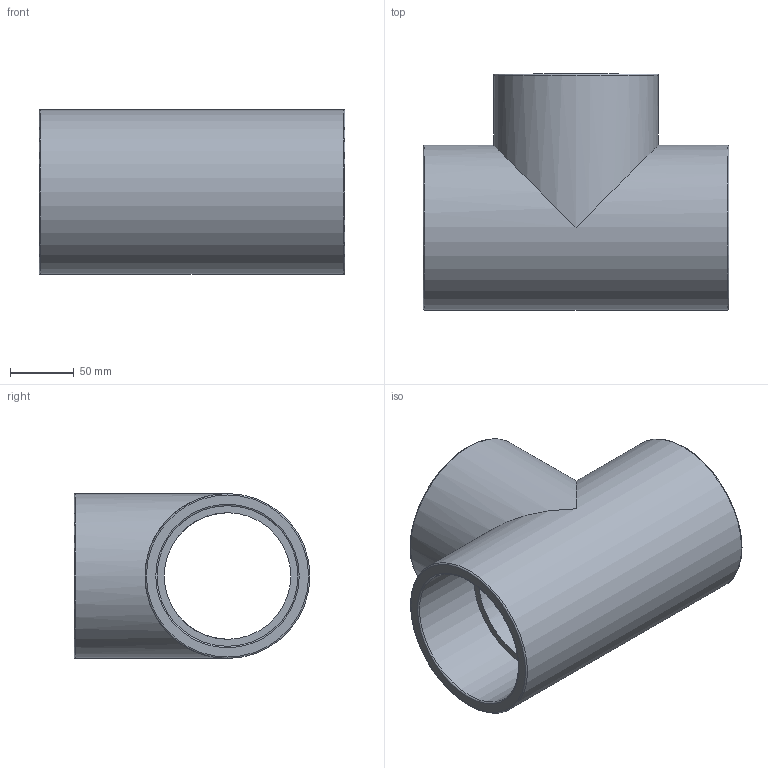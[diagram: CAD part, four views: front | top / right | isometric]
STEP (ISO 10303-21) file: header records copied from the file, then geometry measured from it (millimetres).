
FILE_DESCRIPTION(/* description */ ('PLASSON TEE-CEMENT PVC 110'),/* implementation_level */ '2;1');
FILE_NAME(/* name */ 'C:\Dropbox\KIMPROJECTS-Inventor\99-16-3568-Processing\PVC Catalog 2017\050400\050400110.ipt.stp',/* time_stamp */ '2017-12-07T15:54:28+02:00',/* author */ ('KIM'),/* organization */ (''),/* preprocessor_version */ 'ST-DEVELOPER v15.6',/* originating_system */ 'Autodesk Inventor 2015',/* authorisation */ '');
FILE_SCHEMA (('AUTOMOTIVE_DESIGN { 1 0 10303 214 3 1 1 }'));
Length unit declared in the file: millimetre
Products named in the file (1): 050400110
Bounding box: 239 x 184.5 x 129 mm (x, y, z)
Volume: 1205447.1 mm3; surface area: 225638.6 mm2
Topology: 1 solids, 1 shells, 19 faces, 43 edges, 28 vertices
Faces by surface type: cylinder 7, torus 6, plane 6
Full cylindrical faces by diameter (mm): 99 x2, 110 x3, 129 x2
Entity records: 446 total; most frequent: DIRECTION 84, CARTESIAN_POINT 64, ORIENTED_EDGE 44, AXIS2_PLACEMENT_3D 42, EDGE_LOOP 40, VERTEX_POINT 22, EDGE_CURVE 22, FACE_BOUND 21
